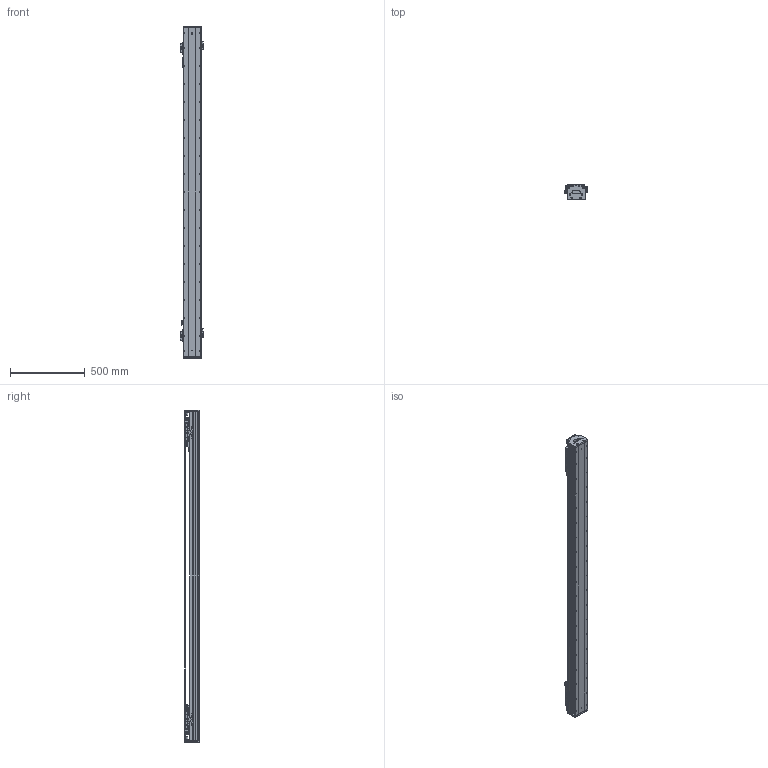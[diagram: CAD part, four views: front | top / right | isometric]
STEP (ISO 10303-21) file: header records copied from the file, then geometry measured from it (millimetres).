
FILE_DESCRIPTION (( 'STEP AP203' ), '1' );
FILE_NAME ('DKW119-2×C2-W060(T1700-L005-0.2).STEP', '2021-09-16T00:45:04', ( '微软用户' ), ( '微软中国' ), 'SwSTEP 2.0', 'SolidWorks 2018', '' );
FILE_SCHEMA (( 'CONFIG_CONTROL_DESIGN' ));
Length unit declared in the file: millimetre
Products named in the file (26): CKM02-W060_00; DKW119 单轴模组-拉钢带组件; CKMA01-W060-TRLxxx; DKW-DG-XJ-Z-00 笢潔滅袉砎蝶; pm-y65; DKW-HXJ-JY-00 遣喳砎蝶; DKW-GYP-ZJ-00 笢潔嫖萇覜茼え; 10980-0001-003-00 嫖萇羲壽嘐隅釱; 11062-0001-004-00 DKW119傷啣; DKW-KGZ-ZJ-00 中间光电开关支架; 嫖萇羲壽蚾饜极; 06652-0001-004-00 DKW120嶺輸菜輸; EE_SX674A; 嫖萇羲壽蚾饜极A; 12018-0001-002-00 詩湍; 12018-0001-001-00 菁釱; DKW119-2×C2-W060(T1700-L005-0.2); DKW-SG-GYP-H-00 嫖萇覜茼え; 砎蝶猾沭; MSB15-DG-U; RUS嫖掑喜; 12160-0000-003-00 DKW120詩湍嶺輸; DKW119-RU-DTJ-00 RU2黍杅芛盓殤; Ru2; 12160-0000-004-00  DKW120詩湍揤輸; 电机出线 ^DKW119-2×C2-W060(T1700-L005-0.2)
Assembly tree (45 placements, depth 3):
  DKW119-2×C2-W060(T1700-L005-0.2)
    12018-0001-001-00 菁釱
    MSB15-DG-U  x2
    DKW119-RU-DTJ-00 RU2黍杅芛盓殤  x2
    电机出线 ^DKW119-2×C2-W060(T1700-L005-0.2)  x2
    CKMA01-W060-TRLxxx
    DKW119 单轴模组-拉钢带组件
      DKW-HXJ-JY-00 遣喳砎蝶  x4
      11062-0001-004-00 DKW119傷啣  x2
      06652-0001-004-00 DKW120嶺輸菜輸  x4
      12018-0001-002-00 詩湍
      砎蝶猾沭  x2
      12160-0000-003-00 DKW120詩湍嶺輸  x2
      12160-0000-004-00  DKW120詩湍揤輸  x2
    嫖萇羲壽蚾饜极
      pm-y65  x2
      10980-0001-003-00 嫖萇羲壽嘐隅釱
    嫖萇羲壽蚾饜极A
      pm-y65  x2
      10980-0001-003-00 嫖萇羲壽嘐隅釱
    DKW-SG-GYP-H-00 嫖萇覜茼え  x2
    RUS嫖掑喜
    Ru2  x2
    CKM02-W060_00  x2
    DKW-DG-XJ-Z-00 笢潔滅袉砎蝶
    DKW-GYP-ZJ-00 笢潔嫖萇覜茼え
    DKW-KGZ-ZJ-00 中间光电开关支架
    EE_SX674A
Bounding box: 154.3 x 99 x 2216 mm (x, y, z)
Volume: 10226558.7 mm3; surface area: 3264443.2 mm2
Topology: 62 solids, 160 shells, 6313 faces, 16806 edges, 10846 vertices
Faces by surface type: plane 3508, cylinder 1889, bspline 494, cone 422
Entity records: 128839 total; most frequent: CARTESIAN_POINT 43322, ORIENTED_EDGE 17219, DIRECTION 16390, EDGE_CURVE 8650, VERTEX_POINT 5684, AXIS2_PLACEMENT_3D 5482, LINE 5426, VECTOR 5426
